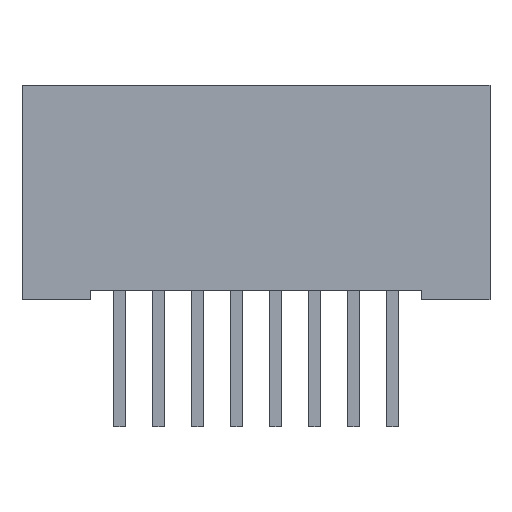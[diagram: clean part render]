
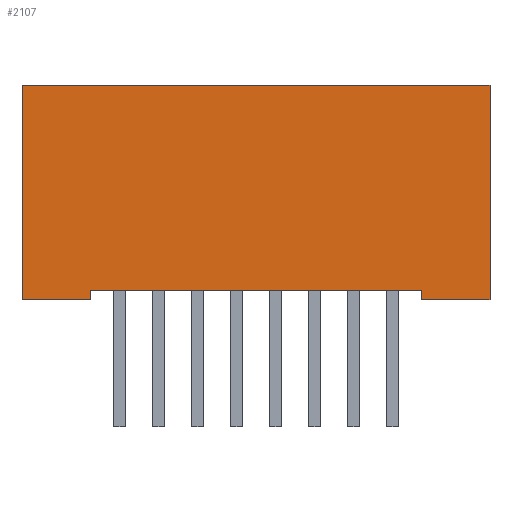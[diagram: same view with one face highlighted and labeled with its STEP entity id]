
A CAD part, front view. The second image highlights one B-rep face of the part: STEP entity #2107.
In plain terms, the highlighted planar face has unit normal (0, -1, 0).
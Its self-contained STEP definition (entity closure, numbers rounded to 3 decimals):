
#289 = VERTEX_POINT ( 'NONE', #3067 ) ;
#309 = AXIS2_PLACEMENT_3D ( 'NONE', #3276, #2909, #4444 ) ;
#332 = DIRECTION ( 'NONE',  ( 1., 0., 0. ) ) ;
#365 = EDGE_CURVE ( 'NONE', #1825, #4346, #1710, .T. ) ;
#431 = LINE ( 'NONE', #3833, #3405 ) ;
#595 = CARTESIAN_POINT ( 'NONE',  ( 6., -1.4, 5.5 ) ) ;
#737 = ORIENTED_EDGE ( 'NONE', *, *, #1807, .T. ) ;
#805 = CARTESIAN_POINT ( 'NONE',  ( 6., -1.4, 0. ) ) ;
#888 = CARTESIAN_POINT ( 'NONE',  ( -6., -1.4, 0. ) ) ;
#1004 = ORIENTED_EDGE ( 'NONE', *, *, #2515, .T. ) ;
#1026 = LINE ( 'NONE', #2525, #1977 ) ;
#1052 = DIRECTION ( 'NONE',  ( 1., 0., 0. ) ) ;
#1245 = ORIENTED_EDGE ( 'NONE', *, *, #4158, .T. ) ;
#1607 = VECTOR ( 'NONE', #4621, 1000. ) ;
#1616 = VECTOR ( 'NONE', #1673, 1000. ) ;
#1662 = DIRECTION ( 'NONE',  ( 0., 0., -1. ) ) ;
#1673 = DIRECTION ( 'NONE',  ( 1., 0., 0. ) ) ;
#1710 = LINE ( 'NONE', #595, #2125 ) ;
#1807 = EDGE_CURVE ( 'NONE', #2995, #4688, #2018, .T. ) ;
#1825 = VERTEX_POINT ( 'NONE', #4726 ) ;
#1830 = VECTOR ( 'NONE', #1662, 1000. ) ;
#1842 = PLANE ( 'NONE',  #309 ) ;
#1927 = CARTESIAN_POINT ( 'NONE',  ( -4.25, -1.4, 0. ) ) ;
#1977 = VECTOR ( 'NONE', #1052, 1000. ) ;
#2018 = LINE ( 'NONE', #4005, #1830 ) ;
#2107 = ADVANCED_FACE ( 'NONE', ( #3753 ), #1842, .F. ) ;
#2113 = EDGE_CURVE ( 'NONE', #289, #2995, #1026, .T. ) ;
#2125 = VECTOR ( 'NONE', #2522, 1000. ) ;
#2148 = EDGE_LOOP ( 'NONE', ( #3040, #737, #3334, #2552, #4707, #1004, #1245, #4481 ) ) ;
#2514 = LINE ( 'NONE', #2871, #3280 ) ;
#2515 = EDGE_CURVE ( 'NONE', #2793, #2849, #431, .T. ) ;
#2522 = DIRECTION ( 'NONE',  ( 0., 0., -1. ) ) ;
#2525 = CARTESIAN_POINT ( 'NONE',  ( -6., -1.4, 0.25 ) ) ;
#2552 = ORIENTED_EDGE ( 'NONE', *, *, #365, .F. ) ;
#2793 = VERTEX_POINT ( 'NONE', #3262 ) ;
#2849 = VERTEX_POINT ( 'NONE', #4064 ) ;
#2871 = CARTESIAN_POINT ( 'NONE',  ( -4.25, -1.4, 5.5 ) ) ;
#2909 = DIRECTION ( 'NONE',  ( 0., 1., 0. ) ) ;
#2995 = VERTEX_POINT ( 'NONE', #4490 ) ;
#3040 = ORIENTED_EDGE ( 'NONE', *, *, #2113, .T. ) ;
#3067 = CARTESIAN_POINT ( 'NONE',  ( -4.25, -1.4, 0.25 ) ) ;
#3134 = VERTEX_POINT ( 'NONE', #1927 ) ;
#3262 = CARTESIAN_POINT ( 'NONE',  ( -6., -1.4, 5.5 ) ) ;
#3276 = CARTESIAN_POINT ( 'NONE',  ( -6., -1.4, 5.5 ) ) ;
#3280 = VECTOR ( 'NONE', #4059, 1000. ) ;
#3334 = ORIENTED_EDGE ( 'NONE', *, *, #4460, .T. ) ;
#3405 = VECTOR ( 'NONE', #3879, 1000. ) ;
#3448 = CARTESIAN_POINT ( 'NONE',  ( -6., -1.4, 5.5 ) ) ;
#3662 = LINE ( 'NONE', #3744, #3936 ) ;
#3744 = CARTESIAN_POINT ( 'NONE',  ( -6., -1.4, 0. ) ) ;
#3753 = FACE_OUTER_BOUND ( 'NONE', #2148, .T. ) ;
#3833 = CARTESIAN_POINT ( 'NONE',  ( -6., -1.4, 5.5 ) ) ;
#3879 = DIRECTION ( 'NONE',  ( 0., 0., -1. ) ) ;
#3936 = VECTOR ( 'NONE', #332, 1000. ) ;
#4005 = CARTESIAN_POINT ( 'NONE',  ( 4.25, -1.4, 5.5 ) ) ;
#4057 = EDGE_CURVE ( 'NONE', #3134, #289, #2514, .T. ) ;
#4059 = DIRECTION ( 'NONE',  ( 0., 0., 1. ) ) ;
#4064 = CARTESIAN_POINT ( 'NONE',  ( -6., -1.4, 0. ) ) ;
#4158 = EDGE_CURVE ( 'NONE', #2849, #3134, #3662, .T. ) ;
#4211 = LINE ( 'NONE', #3448, #1607 ) ;
#4346 = VERTEX_POINT ( 'NONE', #805 ) ;
#4352 = LINE ( 'NONE', #888, #1616 ) ;
#4444 = DIRECTION ( 'NONE',  ( -1., 0., 0. ) ) ;
#4460 = EDGE_CURVE ( 'NONE', #4688, #4346, #4352, .T. ) ;
#4481 = ORIENTED_EDGE ( 'NONE', *, *, #4057, .T. ) ;
#4490 = CARTESIAN_POINT ( 'NONE',  ( 4.25, -1.4, 0.25 ) ) ;
#4621 = DIRECTION ( 'NONE',  ( 1., 0., 0. ) ) ;
#4650 = CARTESIAN_POINT ( 'NONE',  ( 4.25, -1.4, 0. ) ) ;
#4688 = VERTEX_POINT ( 'NONE', #4650 ) ;
#4707 = ORIENTED_EDGE ( 'NONE', *, *, #4773, .F. ) ;
#4726 = CARTESIAN_POINT ( 'NONE',  ( 6., -1.4, 5.5 ) ) ;
#4773 = EDGE_CURVE ( 'NONE', #2793, #1825, #4211, .T. ) ;
